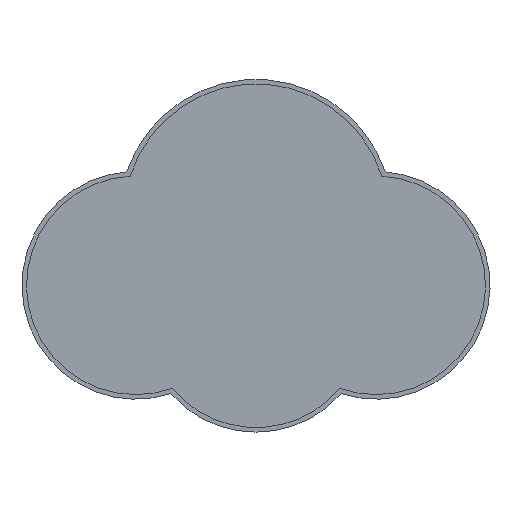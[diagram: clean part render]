
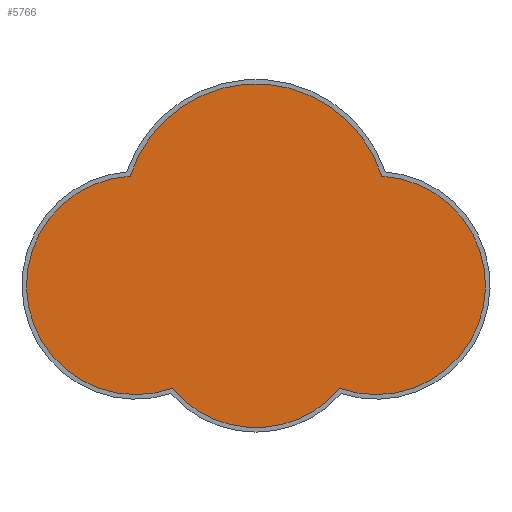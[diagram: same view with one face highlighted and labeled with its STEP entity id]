
A CAD part, front view. The second image highlights one B-rep face of the part: STEP entity #5766.
In plain terms, the highlighted planar face has unit normal (0, -1, 0).
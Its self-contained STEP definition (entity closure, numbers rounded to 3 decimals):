
#383=PLANE('',#6283);
#2032=FACE_OUTER_BOUND('',#2391,.T.);
#2391=EDGE_LOOP('',(#5358,#5359,#5360,#5361));
#2540=CIRCLE('',#6273,96.);
#2542=CIRCLE('',#6276,96.);
#2544=CIRCLE('',#6279,116.);
#2546=CIRCLE('',#6282,96.);
#3053=VERTEX_POINT('',#9480);
#3054=VERTEX_POINT('',#9482);
#3056=VERTEX_POINT('',#9488);
#3058=VERTEX_POINT('',#9494);
#3823=EDGE_CURVE('',#3053,#3054,#2540,.T.);
#3827=EDGE_CURVE('',#3056,#3053,#2542,.T.);
#3830=EDGE_CURVE('',#3058,#3056,#2544,.T.);
#3832=EDGE_CURVE('',#3054,#3058,#2546,.T.);
#5358=ORIENTED_EDGE('',*,*,#3832,.F.);
#5359=ORIENTED_EDGE('',*,*,#3823,.F.);
#5360=ORIENTED_EDGE('',*,*,#3827,.F.);
#5361=ORIENTED_EDGE('',*,*,#3830,.F.);
#5766=ADVANCED_FACE('',(#2032),#383,.T.);
#6273=AXIS2_PLACEMENT_3D('',#9483,#7828,#7829);
#6276=AXIS2_PLACEMENT_3D('',#9490,#7836,#7837);
#6279=AXIS2_PLACEMENT_3D('',#9496,#7843,#7844);
#6282=AXIS2_PLACEMENT_3D('',#9499,#7849,#7850);
#6283=AXIS2_PLACEMENT_3D('',#9500,#7851,#7852);
#7828=DIRECTION('center_axis',(0.,1.,0.));
#7829=DIRECTION('ref_axis',(-0.768,0.,-0.641));
#7836=DIRECTION('center_axis',(0.,1.,0.));
#7837=DIRECTION('ref_axis',(-0.333,0.,-0.943));
#7843=DIRECTION('center_axis',(0.,1.,0.));
#7844=DIRECTION('ref_axis',(0.954,0.,0.301));
#7849=DIRECTION('center_axis',(0.,1.,0.));
#7850=DIRECTION('ref_axis',(-0.052,0.,0.999));
#7851=DIRECTION('center_axis',(0.,-1.,0.));
#7852=DIRECTION('ref_axis',(1.,0.,0.));
#9480=CARTESIAN_POINT('',(73.694,5.,-151.524));
#9482=CARTESIAN_POINT('',(-73.694,5.,-151.524));
#9483=CARTESIAN_POINT('Origin',(0.,5.,-90.));
#9488=CARTESIAN_POINT('',(110.635,5.,34.871));
#9490=CARTESIAN_POINT('Origin',(105.655,5.,-61.));
#9494=CARTESIAN_POINT('',(-110.635,5.,34.871));
#9496=CARTESIAN_POINT('Origin',(0.,5.,0.));
#9499=CARTESIAN_POINT('Origin',(-105.655,5.,-61.));
#9500=CARTESIAN_POINT('Origin',(0.,5.,-35.));
